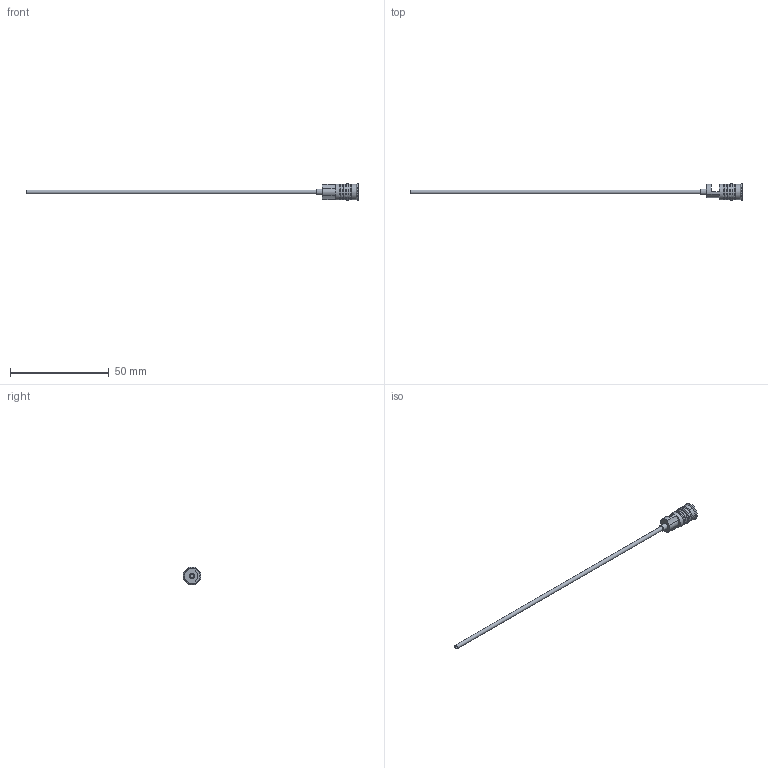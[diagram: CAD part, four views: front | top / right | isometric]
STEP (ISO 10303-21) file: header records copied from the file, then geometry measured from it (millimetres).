
FILE_DESCRIPTION( ( 'STEP AP214' ), '1' );
FILE_NAME( 'p:/temp/worker_238/temp/exporttempdir_3288_245_EsOKj/format_0/RF-8Fx150_2.stp', '2021-02-05T19:47:44', ( 'License CC BY-ND 4.0' ), ( 'CADENAS' ), ' ', 'PARTsolutions', ' ' );
FILE_SCHEMA( ( 'AUTOMOTIVE_DESIGN { 1 0 10303 214 1 1 1 1 }' ) );
Length unit declared in the file: millimetre
Products named in the file (1): _RF-8Fx150/2
Bounding box: 168 x 9 x 9 mm (x, y, z)
Volume: 869.7 mm3; surface area: 2481.1 mm2
Topology: 1 solids, 1 shells, 48 faces, 112 edges, 70 vertices
Faces by surface type: plane 25, cylinder 14, cone 5, torus 4
Full cylindrical faces by diameter (mm): 1.5 x1, 2 x1, 3 x1, 4.9 x1, 8 x5, 9 x1
Entity records: 1673 total; most frequent: CARTESIAN_POINT 230, DIRECTION 221, ORIENTED_EDGE 184, EDGE_CURVE 92, AXIS2_PLACEMENT_3D 85, EDGE_LOOP 72, VERTEX_POINT 70, FACE_OUTER_BOUND 62
